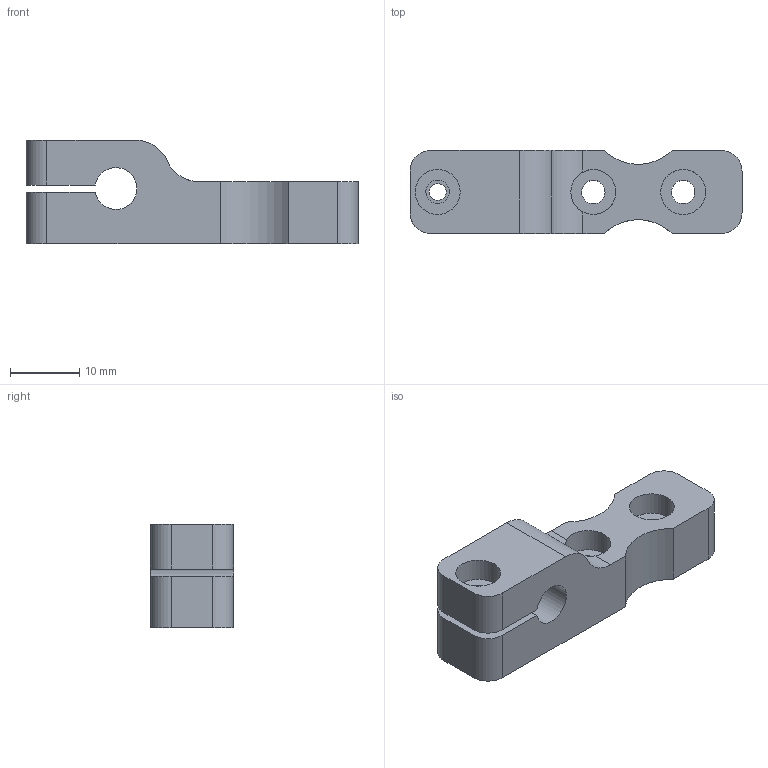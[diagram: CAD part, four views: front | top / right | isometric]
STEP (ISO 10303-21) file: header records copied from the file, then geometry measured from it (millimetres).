
FILE_DESCRIPTION(/* description */ ('Fine Screw Adapter X-Axis'),/* implementation_level */ '2;1');
FILE_NAME(/* name */ 'Z:\Werkstatt Server\Projekte\Atlas\Entwicklung u. Konstruktion\Konstruktion\CAD Daten\ITkPixToolV2.0\Baremodule Jig\ITPTv2.01.00.08.stp',/* time_stamp */ '2021-08-06T14:54:10+02:00',/* author */ ('Tim Kanngießer'),/* organization */ (''),/* preprocessor_version */ 'ST-DEVELOPER v18.1',/* originating_system */ 'Autodesk Inventor 2022',/* authorisation */ '');
FILE_SCHEMA (('AUTOMOTIVE_DESIGN { 1 0 10303 214 3 1 1 }'));
Length unit declared in the file: millimetre
Products named in the file (1): ITPTv2.01.00.08
Bounding box: 48 x 12 x 15 mm (x, y, z)
Volume: 5261.2 mm3; surface area: 3302.7 mm2
Topology: 1 solids, 1 shells, 37 faces, 97 edges, 64 vertices
Faces by surface type: cylinder 20, plane 15, cone 2
Full cylindrical faces by diameter (mm): 2.459 x1, 3 x2, 3.4 x3, 6.5 x3
Entity records: 1221 total; most frequent: CARTESIAN_POINT 211, DIRECTION 209, ORIENTED_EDGE 190, EDGE_CURVE 95, AXIS2_PLACEMENT_3D 78, VERTEX_POINT 64, LINE 53, VECTOR 53
